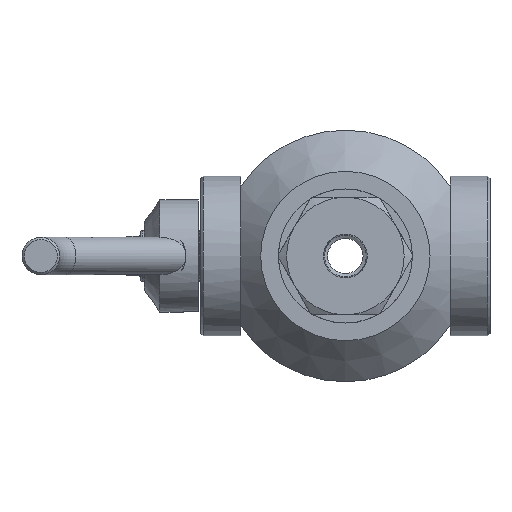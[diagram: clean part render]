
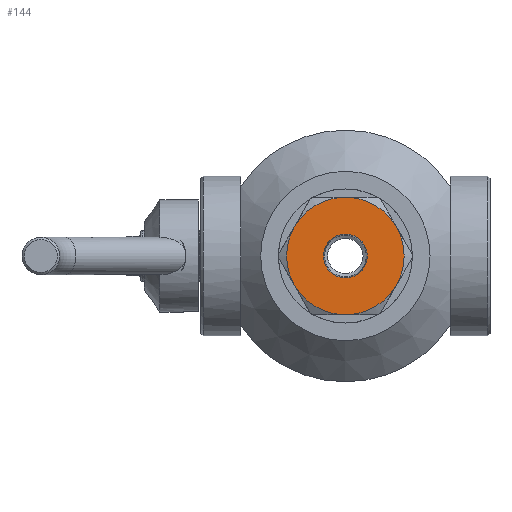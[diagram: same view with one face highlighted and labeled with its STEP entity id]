
A CAD part, left-side view. The second image highlights one B-rep face of the part: STEP entity #144.
In plain terms, the highlighted planar face has unit normal (-1, 0, 0).
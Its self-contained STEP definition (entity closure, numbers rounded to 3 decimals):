
#144=ADVANCED_FACE('',(#1722,#1724),#1726,.T.);
#1722=FACE_BOUND('',#1723,.T.);
#1723=EDGE_LOOP('',(#6558));
#1724=FACE_OUTER_BOUND('',#1725,.T.);
#1725=EDGE_LOOP('',(#6559,#6560,#6561,#6562,#6563,#6564));
#1726=PLANE('',#1727);
#1727=AXIS2_PLACEMENT_3D('',#1728,#1729,#1730);
#1728=CARTESIAN_POINT('',(-87.5,0.,0.));
#1729=DIRECTION('',(-1.,0.,0.));
#1730=DIRECTION('',(0.,-1.,0.));
#6558=ORIENTED_EDGE('',*,*,#9844,.T.);
#6559=ORIENTED_EDGE('',*,*,#9815,.F.);
#6560=ORIENTED_EDGE('',*,*,#9811,.F.);
#6561=ORIENTED_EDGE('',*,*,#9808,.F.);
#6562=ORIENTED_EDGE('',*,*,#9803,.F.);
#6563=ORIENTED_EDGE('',*,*,#9799,.F.);
#6564=ORIENTED_EDGE('',*,*,#9795,.F.);
#9795=EDGE_CURVE('',#11326,#11328,#11329,.T.);
#9799=EDGE_CURVE('',#11328,#11333,#11334,.T.);
#9803=EDGE_CURVE('',#11333,#11338,#11339,.T.);
#9808=EDGE_CURVE('',#11338,#11343,#11345,.T.);
#9811=EDGE_CURVE('',#11343,#11348,#11349,.T.);
#9815=EDGE_CURVE('',#11348,#11326,#11353,.T.);
#9844=EDGE_CURVE('',#11400,#11400,#11401,.F.);
#11326=VERTEX_POINT('',#14294);
#11328=VERTEX_POINT('',#14323);
#11329=CIRCLE('',#14324,25.);
#11333=VERTEX_POINT('',#14380);
#11334=CIRCLE('',#14381,25.);
#11338=VERTEX_POINT('',#14437);
#11339=CIRCLE('',#14438,25.);
#11343=VERTEX_POINT('',#14494);
#11345=CIRCLE('',#14516,25.);
#11348=VERTEX_POINT('',#14551);
#11349=CIRCLE('',#14552,25.);
#11353=CIRCLE('',#14608,25.);
#11400=VERTEX_POINT('',#14744);
#11401=CIRCLE('',#14745,9.316);
#14294=CARTESIAN_POINT('',(-87.5,-21.651,12.5));
#14323=CARTESIAN_POINT('',(-87.5,-21.651,-12.5));
#14324=AXIS2_PLACEMENT_3D('',#14325,#14326,#14327);
#14325=CARTESIAN_POINT('',(-87.5,0.,0.));
#14326=DIRECTION('',(1.,0.,0.));
#14327=DIRECTION('',(0.,-0.866,0.5));
#14380=CARTESIAN_POINT('',(-87.5,0.,-25.));
#14381=AXIS2_PLACEMENT_3D('',#14382,#14383,#14384);
#14382=CARTESIAN_POINT('',(-87.5,0.,0.));
#14383=DIRECTION('',(1.,0.,0.));
#14384=DIRECTION('',(0.,-0.866,-0.5));
#14437=CARTESIAN_POINT('',(-87.5,21.651,-12.5));
#14438=AXIS2_PLACEMENT_3D('',#14439,#14440,#14441);
#14439=CARTESIAN_POINT('',(-87.5,0.,0.));
#14440=DIRECTION('',(1.,0.,0.));
#14441=DIRECTION('',(0.,0.,-1.));
#14494=CARTESIAN_POINT('',(-87.5,21.651,12.5));
#14516=AXIS2_PLACEMENT_3D('',#14517,#14518,#14519);
#14517=CARTESIAN_POINT('',(-87.5,0.,0.));
#14518=DIRECTION('',(1.,0.,0.));
#14519=DIRECTION('',(0.,0.866,-0.5));
#14551=CARTESIAN_POINT('',(-87.5,0.,25.));
#14552=AXIS2_PLACEMENT_3D('',#14553,#14554,#14555);
#14553=CARTESIAN_POINT('',(-87.5,0.,0.));
#14554=DIRECTION('',(1.,0.,0.));
#14555=DIRECTION('',(0.,0.866,0.5));
#14608=AXIS2_PLACEMENT_3D('',#14609,#14610,#14611);
#14609=CARTESIAN_POINT('',(-87.5,0.,0.));
#14610=DIRECTION('',(1.,0.,0.));
#14611=DIRECTION('',(0.,0.,1.));
#14744=CARTESIAN_POINT('',(-87.5,-9.316,0.));
#14745=AXIS2_PLACEMENT_3D('',#14746,#14747,#14748);
#14746=CARTESIAN_POINT('',(-87.5,0.,0.));
#14747=DIRECTION('',(-1.,0.,0.));
#14748=DIRECTION('',(0.,-1.,0.));
